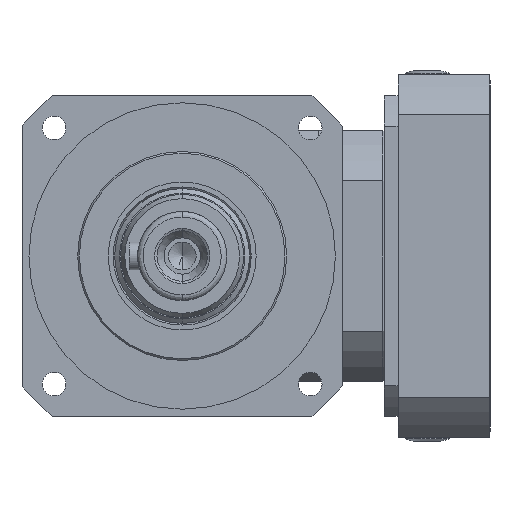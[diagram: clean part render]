
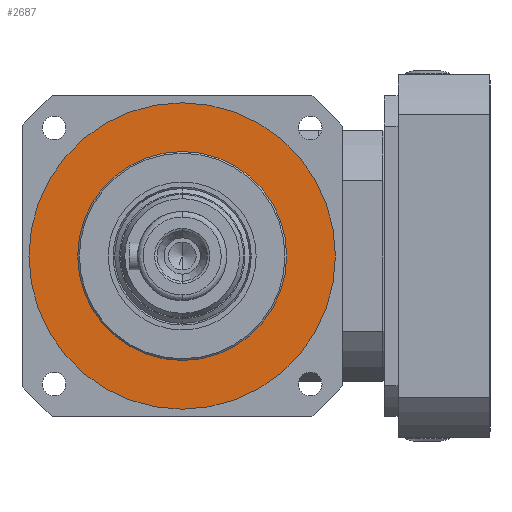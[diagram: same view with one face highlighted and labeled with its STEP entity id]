
A CAD part, left-side view. The second image highlights one B-rep face of the part: STEP entity #2687.
In plain terms, the highlighted planar face has unit normal (-1, 0, 0).
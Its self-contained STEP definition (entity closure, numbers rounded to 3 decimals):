
#813 = DIRECTION ( 'NONE',  ( -1., 0., 0. ) ) ;
#2687 = ADVANCED_FACE ( 'NONE', ( #7078, #29449 ), #20864, .F. ) ;
#3915 = ORIENTED_EDGE ( 'NONE', *, *, #12003, .F. ) ;
#4675 = CARTESIAN_POINT ( 'NONE',  ( -67., 0., 0. ) ) ;
#4854 = EDGE_CURVE ( 'NONE', #13670, #20380, #20251, .T. ) ;
#5501 = DIRECTION ( 'NONE',  ( 0., 0., 1. ) ) ;
#6908 = CARTESIAN_POINT ( 'NONE',  ( -67., 0., -55. ) ) ;
#7078 = FACE_BOUND ( 'NONE', #22876, .T. ) ;
#7117 = EDGE_LOOP ( 'NONE', ( #13510, #23978 ) ) ;
#7194 = DIRECTION ( 'NONE',  ( 1., 0., 0. ) ) ;
#7868 = VERTEX_POINT ( 'NONE', #9243 ) ;
#8781 = AXIS2_PLACEMENT_3D ( 'NONE', #25029, #25375, #14285 ) ;
#9243 = CARTESIAN_POINT ( 'NONE',  ( -67., 0., 55. ) ) ;
#10184 = CARTESIAN_POINT ( 'NONE',  ( -67., 0., 37.5 ) ) ;
#11708 = DIRECTION ( 'NONE',  ( 0., 0., 1. ) ) ;
#12003 = EDGE_CURVE ( 'NONE', #20380, #13670, #18053, .T. ) ;
#12215 = AXIS2_PLACEMENT_3D ( 'NONE', #4675, #34680, #18120 ) ;
#13510 = ORIENTED_EDGE ( 'NONE', *, *, #18679, .F. ) ;
#13670 = VERTEX_POINT ( 'NONE', #10184 ) ;
#14092 = DIRECTION ( 'NONE',  ( 1., 0., 0. ) ) ;
#14285 = DIRECTION ( 'NONE',  ( 0., 0., 1. ) ) ;
#16221 = ORIENTED_EDGE ( 'NONE', *, *, #4854, .F. ) ;
#18053 = CIRCLE ( 'NONE', #23408, 37.5 ) ;
#18120 = DIRECTION ( 'NONE',  ( 0., 0., 1. ) ) ;
#18679 = EDGE_CURVE ( 'NONE', #7868, #23645, #22522, .T. ) ;
#20251 = CIRCLE ( 'NONE', #8781, 37.5 ) ;
#20380 = VERTEX_POINT ( 'NONE', #31468 ) ;
#20864 = PLANE ( 'NONE',  #27390 ) ;
#22051 = CARTESIAN_POINT ( 'NONE',  ( -67., 0., 0. ) ) ;
#22522 = CIRCLE ( 'NONE', #31202, 55. ) ;
#22876 = EDGE_LOOP ( 'NONE', ( #16221, #3915 ) ) ;
#23408 = AXIS2_PLACEMENT_3D ( 'NONE', #25196, #813, #11708 ) ;
#23623 = CARTESIAN_POINT ( 'NONE',  ( -67., 0., 0. ) ) ;
#23645 = VERTEX_POINT ( 'NONE', #6908 ) ;
#23978 = ORIENTED_EDGE ( 'NONE', *, *, #27768, .F. ) ;
#25029 = CARTESIAN_POINT ( 'NONE',  ( -67., 0., 0. ) ) ;
#25196 = CARTESIAN_POINT ( 'NONE',  ( -67., 0., 0. ) ) ;
#25375 = DIRECTION ( 'NONE',  ( -1., 0., 0. ) ) ;
#27390 = AXIS2_PLACEMENT_3D ( 'NONE', #23623, #7194, #29445 ) ;
#27768 = EDGE_CURVE ( 'NONE', #23645, #7868, #33251, .T. ) ;
#29445 = DIRECTION ( 'NONE',  ( 0., 0., -1. ) ) ;
#29449 = FACE_OUTER_BOUND ( 'NONE', #7117, .T. ) ;
#31202 = AXIS2_PLACEMENT_3D ( 'NONE', #22051, #14092, #5501 ) ;
#31468 = CARTESIAN_POINT ( 'NONE',  ( -67., 0., -37.5 ) ) ;
#33251 = CIRCLE ( 'NONE', #12215, 55. ) ;
#34680 = DIRECTION ( 'NONE',  ( 1., 0., 0. ) ) ;
